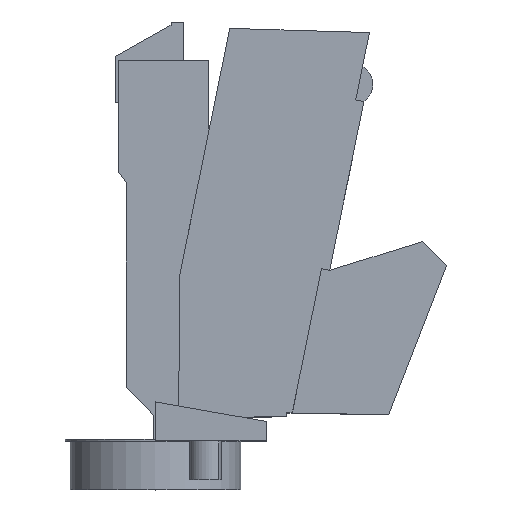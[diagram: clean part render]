
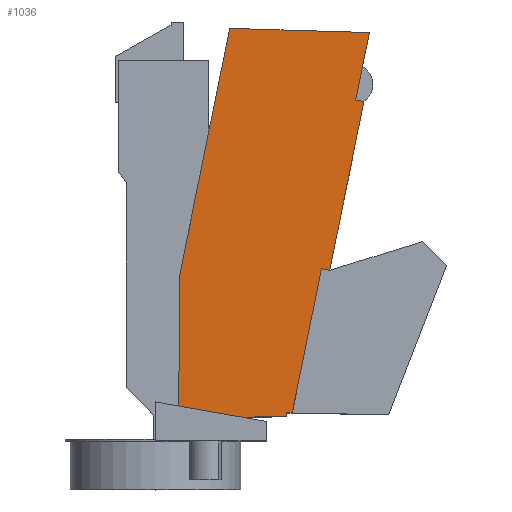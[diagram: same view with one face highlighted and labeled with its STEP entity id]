
A CAD part, top view. The second image highlights one B-rep face of the part: STEP entity #1036.
In plain terms, the highlighted planar face has unit normal (0, 0, 1).
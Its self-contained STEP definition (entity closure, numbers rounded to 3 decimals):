
#2 = VERTEX_POINT ( 'NONE', #43 ) ;
#12 = CARTESIAN_POINT ( 'NONE',  ( 53.157, 31.582, 12.1 ) ) ;
#27 = VECTOR ( 'NONE', #437, 1000. ) ;
#39 = VECTOR ( 'NONE', #1915, 1000. ) ;
#43 = CARTESIAN_POINT ( 'NONE',  ( 54.823, 31.244, 12.1 ) ) ;
#63 = VERTEX_POINT ( 'NONE', #1204 ) ;
#72 = ORIENTED_EDGE ( 'NONE', *, *, #1471, .T. ) ;
#105 = CARTESIAN_POINT ( 'NONE',  ( 54.553, 38.462, 12.1 ) ) ;
#110 = ORIENTED_EDGE ( 'NONE', *, *, #2062, .T. ) ;
#141 = DIRECTION ( 'NONE',  ( 1., -0.017, 0. ) ) ;
#146 = VERTEX_POINT ( 'NONE', #252 ) ;
#150 = LINE ( 'NONE', #1400, #39 ) ;
#156 = CARTESIAN_POINT ( 'NONE',  ( 17.02, -4.22, 12.1 ) ) ;
#164 = VERTEX_POINT ( 'NONE', #1279 ) ;
#185 = EDGE_CURVE ( 'NONE', #1437, #1509, #1934, .T. ) ;
#193 = EDGE_CURVE ( 'NONE', #146, #582, #1510, .T. ) ;
#213 = DIRECTION ( 'NONE',  ( -0.985, 0.174, 0. ) ) ;
#225 = VERTEX_POINT ( 'NONE', #953 ) ;
#242 = VERTEX_POINT ( 'NONE', #12 ) ;
#246 = LINE ( 'NONE', #105, #1949 ) ;
#252 = CARTESIAN_POINT ( 'NONE',  ( 29.76, -33.62, 12.1 ) ) ;
#253 = LINE ( 'NONE', #1528, #522 ) ;
#260 = EDGE_LOOP ( 'NONE', ( #2012, #1524, #1285, #950, #110, #353, #1803, #1731, #1972, #1478, #72, #589, #617 ) ) ;
#267 = CARTESIAN_POINT ( 'NONE',  ( 30.215, -33.58, 12.1 ) ) ;
#286 = VECTOR ( 'NONE', #1009, 1000. ) ;
#287 = VERTEX_POINT ( 'NONE', #1680 ) ;
#297 = EDGE_CURVE ( 'NONE', #2, #63, #150, .T. ) ;
#332 = VECTOR ( 'NONE', #1374, 1000. ) ;
#341 = DIRECTION ( 'NONE',  ( -0.199, -0.98, 0. ) ) ;
#353 = ORIENTED_EDGE ( 'NONE', *, *, #1150, .T. ) ;
#361 = CARTESIAN_POINT ( 'NONE',  ( 12., -30.489, 12.1 ) ) ;
#375 = VERTEX_POINT ( 'NONE', #1958 ) ;
#387 = CARTESIAN_POINT ( 'NONE',  ( 27.265, 46.272, 12.1 ) ) ;
#393 = DIRECTION ( 'NONE',  ( 0.98, -0.199, 0. ) ) ;
#426 = DIRECTION ( 'NONE',  ( 0.199, 0.98, 0. ) ) ;
#437 = DIRECTION ( 'NONE',  ( 0.98, -0.199, 0. ) ) ;
#463 = VECTOR ( 'NONE', #587, 1000. ) ;
#489 = DIRECTION ( 'NONE',  ( 0., 1., 0. ) ) ;
#491 = VERTEX_POINT ( 'NONE', #1717 ) ;
#514 = LINE ( 'NONE', #1940, #968 ) ;
#522 = VECTOR ( 'NONE', #1845, 1000. ) ;
#528 = VECTOR ( 'NONE', #341, 1000. ) ;
#567 = CARTESIAN_POINT ( 'NONE',  ( 11.108, 4.016, 12.1 ) ) ;
#582 = VERTEX_POINT ( 'NONE', #848 ) ;
#587 = DIRECTION ( 'NONE',  ( 1., 0.012, 0. ) ) ;
#589 = ORIENTED_EDGE ( 'NONE', *, *, #185, .T. ) ;
#605 = AXIS2_PLACEMENT_3D ( 'NONE', #1763, #641, #943 ) ;
#617 = ORIENTED_EDGE ( 'NONE', *, *, #1868, .T. ) ;
#619 = CARTESIAN_POINT ( 'NONE',  ( 27.265, 46.272, 12.1 ) ) ;
#641 = DIRECTION ( 'NONE',  ( 0., 0., -1. ) ) ;
#651 = EDGE_CURVE ( 'NONE', #146, #287, #1986, .T. ) ;
#690 = DIRECTION ( 'NONE',  ( 1., 0., 0. ) ) ;
#713 = EDGE_CURVE ( 'NONE', #242, #164, #246, .T. ) ;
#715 = LINE ( 'NONE', #1358, #1565 ) ;
#728 = EDGE_CURVE ( 'NONE', #582, #884, #902, .T. ) ;
#729 = LINE ( 'NONE', #1638, #332 ) ;
#798 = VECTOR ( 'NONE', #213, 1000. ) ;
#828 = EDGE_CURVE ( 'NONE', #491, #63, #1219, .T. ) ;
#848 = CARTESIAN_POINT ( 'NONE',  ( 30.215, -33.58, 12.1 ) ) ;
#858 = FACE_OUTER_BOUND ( 'NONE', #260, .T. ) ;
#869 = PLANE ( 'NONE',  #960 ) ;
#879 = CARTESIAN_POINT ( 'NONE',  ( 16.715, -38.5, 12.1 ) ) ;
#884 = VERTEX_POINT ( 'NONE', #1590 ) ;
#902 = LINE ( 'NONE', #267, #463 ) ;
#943 = DIRECTION ( 'NONE',  ( 1., 0., 0. ) ) ;
#950 = ORIENTED_EDGE ( 'NONE', *, *, #1766, .T. ) ;
#953 = CARTESIAN_POINT ( 'NONE',  ( 40.107, -32.736, 12.1 ) ) ;
#960 = AXIS2_PLACEMENT_3D ( 'NONE', #1794, #1505, #690 ) ;
#968 = VECTOR ( 'NONE', #489, 1000. ) ;
#1000 = LINE ( 'NONE', #879, #286 ) ;
#1009 = DIRECTION ( 'NONE',  ( -0.009, -1., 0. ) ) ;
#1036 = ADVANCED_FACE ( 'NONE', ( #858 ), #869, .T. ) ;
#1150 = EDGE_CURVE ( 'NONE', #225, #491, #253, .T. ) ;
#1204 = CARTESIAN_POINT ( 'NONE',  ( 47.789, -3.427, 12.1 ) ) ;
#1219 = LINE ( 'NONE', #567, #27 ) ;
#1279 = CARTESIAN_POINT ( 'NONE',  ( 55.963, 45.41, 12.1 ) ) ;
#1285 = ORIENTED_EDGE ( 'NONE', *, *, #728, .T. ) ;
#1358 = CARTESIAN_POINT ( 'NONE',  ( 18.143, 38.686, 12.1 ) ) ;
#1374 = DIRECTION ( 'NONE',  ( -1., 0.03, 0. ) ) ;
#1400 = CARTESIAN_POINT ( 'NONE',  ( 47.789, -3.427, 12.1 ) ) ;
#1437 = VERTEX_POINT ( 'NONE', #387 ) ;
#1471 = EDGE_CURVE ( 'NONE', #164, #1437, #729, .T. ) ;
#1478 = ORIENTED_EDGE ( 'NONE', *, *, #713, .T. ) ;
#1505 = DIRECTION ( 'NONE',  ( 0., 0., 1. ) ) ;
#1509 = VERTEX_POINT ( 'NONE', #156 ) ;
#1510 = CIRCLE ( 'NONE', #605, 3. ) ;
#1524 = ORIENTED_EDGE ( 'NONE', *, *, #193, .T. ) ;
#1528 = CARTESIAN_POINT ( 'NONE',  ( 54.553, 38.462, 12.1 ) ) ;
#1565 = VECTOR ( 'NONE', #393, 1000. ) ;
#1581 = LINE ( 'NONE', #2031, #1827 ) ;
#1590 = CARTESIAN_POINT ( 'NONE',  ( 38.88, -33.48, 12.1 ) ) ;
#1638 = CARTESIAN_POINT ( 'NONE',  ( 55.963, 45.41, 12.1 ) ) ;
#1680 = CARTESIAN_POINT ( 'NONE',  ( 16.779, -31.331, 12.1 ) ) ;
#1717 = CARTESIAN_POINT ( 'NONE',  ( 46.123, -3.089, 12.1 ) ) ;
#1731 = ORIENTED_EDGE ( 'NONE', *, *, #297, .F. ) ;
#1763 = CARTESIAN_POINT ( 'NONE',  ( 30.249, -36.58, 12.1 ) ) ;
#1766 = EDGE_CURVE ( 'NONE', #884, #375, #514, .T. ) ;
#1794 = CARTESIAN_POINT ( 'NONE',  ( 52.387, 34.766, 12.1 ) ) ;
#1803 = ORIENTED_EDGE ( 'NONE', *, *, #828, .T. ) ;
#1827 = VECTOR ( 'NONE', #141, 1000. ) ;
#1837 = EDGE_CURVE ( 'NONE', #242, #2, #715, .T. ) ;
#1845 = DIRECTION ( 'NONE',  ( 0.199, 0.98, 0. ) ) ;
#1868 = EDGE_CURVE ( 'NONE', #1509, #287, #1000, .T. ) ;
#1915 = DIRECTION ( 'NONE',  ( -0.199, -0.98, 0. ) ) ;
#1934 = LINE ( 'NONE', #619, #528 ) ;
#1940 = CARTESIAN_POINT ( 'NONE',  ( 38.88, -33.48, 12.1 ) ) ;
#1949 = VECTOR ( 'NONE', #426, 1000. ) ;
#1958 = CARTESIAN_POINT ( 'NONE',  ( 38.88, -32.715, 12.1 ) ) ;
#1972 = ORIENTED_EDGE ( 'NONE', *, *, #1837, .F. ) ;
#1986 = LINE ( 'NONE', #361, #798 ) ;
#2012 = ORIENTED_EDGE ( 'NONE', *, *, #651, .F. ) ;
#2031 = CARTESIAN_POINT ( 'NONE',  ( 38.88, -32.715, 12.1 ) ) ;
#2062 = EDGE_CURVE ( 'NONE', #375, #225, #1581, .T. ) ;
